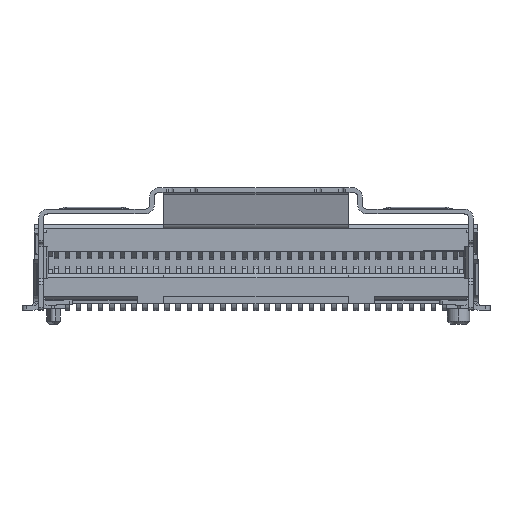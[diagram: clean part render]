
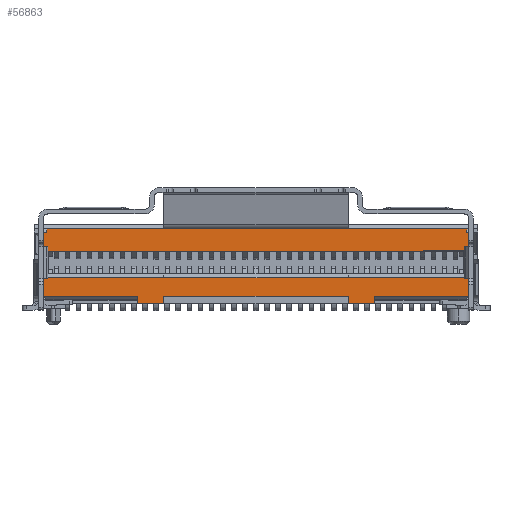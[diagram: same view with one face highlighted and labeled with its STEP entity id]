
A CAD part, top view. The second image highlights one B-rep face of the part: STEP entity #56863.
In plain terms, the highlighted planar face has unit normal (0, 0, 1).
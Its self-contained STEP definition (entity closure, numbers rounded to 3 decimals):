
#2132=DIRECTION('',(1.,0.,0.));
#2133=VECTOR('',#2132,0.198);
#2134=CARTESIAN_POINT('',(-11.5,1.62,0.));
#2135=LINE('',#2134,#2133);
#2136=DIRECTION('',(1.,0.,0.));
#2137=VECTOR('',#2136,22.689);
#2138=CARTESIAN_POINT('',(-11.302,1.82,0.));
#2139=LINE('',#2138,#2137);
#2140=DIRECTION('',(0.,-1.,0.));
#2141=VECTOR('',#2140,0.2);
#2142=CARTESIAN_POINT('',(11.387,1.82,0.));
#2143=LINE('',#2142,#2141);
#2144=DIRECTION('',(1.,0.,0.));
#2145=VECTOR('',#2144,0.113);
#2146=CARTESIAN_POINT('',(11.387,1.62,0.));
#2147=LINE('',#2146,#2145);
#2148=DIRECTION('',(0.,-1.,0.));
#2149=VECTOR('',#2148,0.05);
#2150=CARTESIAN_POINT('',(11.5,-1.77,0.));
#2151=LINE('',#2150,#2149);
#2152=DIRECTION('',(-1.,0.,0.));
#2153=VECTOR('',#2152,5.085);
#2154=CARTESIAN_POINT('',(11.5,-1.82,0.));
#2155=LINE('',#2154,#2153);
#2156=DIRECTION('',(0.,-1.,0.));
#2157=VECTOR('',#2156,0.4);
#2158=CARTESIAN_POINT('',(6.415,-1.82,0.));
#2159=LINE('',#2158,#2157);
#2160=DIRECTION('',(-1.,0.,0.));
#2161=VECTOR('',#2160,9.97);
#2162=CARTESIAN_POINT('',(4.985,-1.82,0.));
#2163=LINE('',#2162,#2161);
#2164=DIRECTION('',(0.,-1.,0.));
#2165=VECTOR('',#2164,0.4);
#2166=CARTESIAN_POINT('',(-4.985,-1.82,0.));
#2167=LINE('',#2166,#2165);
#2168=DIRECTION('',(-1.,0.,0.));
#2169=VECTOR('',#2168,5.085);
#2170=CARTESIAN_POINT('',(-6.415,-1.82,0.));
#2171=LINE('',#2170,#2169);
#2172=DIRECTION('',(0.,1.,0.));
#2173=VECTOR('',#2172,0.05);
#2174=CARTESIAN_POINT('',(-11.5,-1.82,0.));
#2175=LINE('',#2174,#2173);
#2176=DIRECTION('',(0.,1.,0.));
#2177=VECTOR('',#2176,3.39);
#2178=CARTESIAN_POINT('',(-11.5,-1.77,0.));
#2179=LINE('',#2178,#2177);
#2180=DIRECTION('',(-1.,0.001,0.));
#2181=VECTOR('',#2180,0.053);
#2182=CARTESIAN_POINT('',(11.44,0.81,0.));
#2183=LINE('',#2182,#2181);
#2184=DIRECTION('',(0.,-1.,0.));
#2185=VECTOR('',#2184,0.182);
#2186=CARTESIAN_POINT('',(11.387,0.81,
0.));
#2187=LINE('',#2186,#2185);
#2188=DIRECTION('',(-1.,-0.001,0.));
#2189=VECTOR('',#2188,22.689);
#2190=CARTESIAN_POINT('',(11.387,0.628,
0.));
#2191=LINE('',#2190,#2189);
#2192=DIRECTION('',(-1.,-0.001,0.));
#2193=VECTOR('',#2192,0.138);
#2194=CARTESIAN_POINT('',(-11.302,0.81,
0.));
#2195=LINE('',#2194,#2193);
#2196=DIRECTION('',(0.,-1.,0.));
#2197=VECTOR('',#2196,1.62);
#2198=CARTESIAN_POINT('',(-11.44,0.81,0.));
#2199=LINE('',#2198,#2197);
#2200=DIRECTION('',(1.,-0.001,0.));
#2201=VECTOR('',#2200,6.455);
#2202=CARTESIAN_POINT('',(-11.44,-0.81,0.));
#2203=LINE('',#2202,#2201);
#2204=DIRECTION('',(1.,0.,0.));
#2205=VECTOR('',#2204,9.97);
#2206=CARTESIAN_POINT('',(-4.985,-0.815,
0.));
#2207=LINE('',#2206,#2205);
#2208=DIRECTION('',(1.,0.001,0.));
#2209=VECTOR('',#2208,6.455);
#2210=CARTESIAN_POINT('',(4.985,-0.815,
0.));
#2211=LINE('',#2210,#2209);
#2212=DIRECTION('',(0.,1.,0.));
#2213=VECTOR('',#2212,1.62);
#2214=CARTESIAN_POINT('',(11.44,-0.81,0.));
#2215=LINE('',#2214,#2213);
#2224=DIRECTION('',(0.,-1.,0.));
#2225=VECTOR('',#2224,0.2);
#2226=CARTESIAN_POINT('',(-11.302,1.82,0.));
#2227=LINE('',#2226,#2225);
#2353=DIRECTION('',(0.,1.,0.));
#2354=VECTOR('',#2353,3.39);
#2355=CARTESIAN_POINT('',(11.5,-1.77,0.));
#2356=LINE('',#2355,#2354);
#4751=DIRECTION('',(1.,0.,0.));
#4752=VECTOR('',#4751,1.43);
#4753=CARTESIAN_POINT('',(-6.415,-2.22,0.));
#4754=LINE('',#4753,#4752);
#4767=DIRECTION('',(1.,0.,0.));
#4768=VECTOR('',#4767,1.43);
#4769=CARTESIAN_POINT('',(4.985,-2.22,0.));
#4770=LINE('',#4769,#4768);
#6139=DIRECTION('',(0.,-1.,0.));
#6140=VECTOR('',#6139,0.4);
#6141=CARTESIAN_POINT('',(-6.415,-1.82,0.));
#6142=LINE('',#6141,#6140);
#24987=DIRECTION('',(0.,-1.,0.));
#24988=VECTOR('',#24987,0.4);
#24989=CARTESIAN_POINT('',(4.985,-1.82,0.));
#24990=LINE('',#24989,#24988);
#30262=DIRECTION('',(0.,-1.,0.));
#30263=VECTOR('',#30262,0.2);
#30264=CARTESIAN_POINT('',(-11.302,0.81,
0.));
#30265=LINE('',#30264,#30263);
#45008=CARTESIAN_POINT('',(-6.415,-2.22,0.));
#45009=VERTEX_POINT('',#45008);
#45010=CARTESIAN_POINT('',(-4.985,-2.22,0.));
#45011=VERTEX_POINT('',#45010);
#45016=CARTESIAN_POINT('',(4.985,-2.22,0.));
#45017=VERTEX_POINT('',#45016);
#45018=CARTESIAN_POINT('',(6.415,-2.22,0.));
#45019=VERTEX_POINT('',#45018);
#45242=CARTESIAN_POINT('',(11.5,-1.82,0.));
#45243=VERTEX_POINT('',#45242);
#45244=CARTESIAN_POINT('',(6.415,-1.82,0.));
#45245=VERTEX_POINT('',#45244);
#45407=CARTESIAN_POINT('',(11.5,-1.77,0.));
#45408=VERTEX_POINT('',#45407);
#45411=CARTESIAN_POINT('',(-11.5,1.62,0.));
#45412=CARTESIAN_POINT('',(-11.302,1.62,
0.));
#45413=VERTEX_POINT('',#45411);
#45414=VERTEX_POINT('',#45412);
#45415=CARTESIAN_POINT('',(-11.302,1.82,0.));
#45416=VERTEX_POINT('',#45415);
#45417=CARTESIAN_POINT('',(11.387,1.82,0.));
#45418=VERTEX_POINT('',#45417);
#45419=CARTESIAN_POINT('',(11.387,1.62,0.));
#45420=VERTEX_POINT('',#45419);
#45421=CARTESIAN_POINT('',(11.5,1.62,0.));
#45422=VERTEX_POINT('',#45421);
#45423=CARTESIAN_POINT('',(4.985,-1.82,0.));
#45424=VERTEX_POINT('',#45423);
#45425=CARTESIAN_POINT('',(-4.985,-1.82,0.));
#45426=VERTEX_POINT('',#45425);
#45427=CARTESIAN_POINT('',(-6.415,-1.82,0.));
#45428=VERTEX_POINT('',#45427);
#45429=CARTESIAN_POINT('',(-11.5,-1.82,0.));
#45430=VERTEX_POINT('',#45429);
#45431=CARTESIAN_POINT('',(-11.5,-1.77,0.));
#45432=VERTEX_POINT('',#45431);
#45433=CARTESIAN_POINT('',(11.44,0.81,0.));
#45434=CARTESIAN_POINT('',(11.387,0.81,
0.));
#45435=VERTEX_POINT('',#45433);
#45436=VERTEX_POINT('',#45434);
#45437=CARTESIAN_POINT('',(11.387,0.628,
0.));
#45438=VERTEX_POINT('',#45437);
#45439=CARTESIAN_POINT('',(-11.302,0.61,
0.));
#45440=VERTEX_POINT('',#45439);
#45441=CARTESIAN_POINT('',(-11.302,0.81,
0.));
#45442=VERTEX_POINT('',#45441);
#45443=CARTESIAN_POINT('',(-11.44,0.81,0.));
#45444=VERTEX_POINT('',#45443);
#45445=CARTESIAN_POINT('',(-11.44,-0.81,0.));
#45446=VERTEX_POINT('',#45445);
#45447=CARTESIAN_POINT('',(-4.985,-0.815,
0.));
#45448=VERTEX_POINT('',#45447);
#45449=CARTESIAN_POINT('',(4.985,-0.815,
0.));
#45450=VERTEX_POINT('',#45449);
#45451=CARTESIAN_POINT('',(11.44,-0.81,0.));
#45452=VERTEX_POINT('',#45451);
#56801=CARTESIAN_POINT('',(5.4,0.,0.));
#56802=DIRECTION('',(0.,0.,1.));
#56803=DIRECTION('',(1.,0.,0.));
#56804=AXIS2_PLACEMENT_3D('',#56801,#56802,#56803);
#56805=PLANE('',#56804);
#56807=ORIENTED_EDGE('',*,*,#56806,.T.);
#56809=ORIENTED_EDGE('',*,*,#56808,.F.);
#56811=ORIENTED_EDGE('',*,*,#56810,.T.);
#56813=ORIENTED_EDGE('',*,*,#56812,.T.);
#56815=ORIENTED_EDGE('',*,*,#56814,.T.);
#56817=ORIENTED_EDGE('',*,*,#56816,.F.);
#56819=ORIENTED_EDGE('',*,*,#56818,.T.);
#56821=ORIENTED_EDGE('',*,*,#56820,.T.);
#56823=ORIENTED_EDGE('',*,*,#56822,.T.);
#56825=ORIENTED_EDGE('',*,*,#56824,.F.);
#56827=ORIENTED_EDGE('',*,*,#56826,.F.);
#56829=ORIENTED_EDGE('',*,*,#56828,.T.);
#56831=ORIENTED_EDGE('',*,*,#56830,.T.);
#56833=ORIENTED_EDGE('',*,*,#56832,.F.);
#56835=ORIENTED_EDGE('',*,*,#56834,.F.);
#56837=ORIENTED_EDGE('',*,*,#56836,.T.);
#56839=ORIENTED_EDGE('',*,*,#56838,.T.);
#56841=ORIENTED_EDGE('',*,*,#56840,.T.);
#56842=EDGE_LOOP('',(#56807,#56809,#56811,#56813,#56815,#56817,#56819,#56821,
#56823,#56825,#56827,#56829,#56831,#56833,#56835,#56837,#56839,#56841));
#56843=FACE_OUTER_BOUND('',#56842,.F.);
#56845=ORIENTED_EDGE('',*,*,#56844,.T.);
#56846=ORIENTED_EDGE('',*,*,#56794,.T.);
#56847=ORIENTED_EDGE('',*,*,#53686,.T.);
#56849=ORIENTED_EDGE('',*,*,#56848,.F.);
#56851=ORIENTED_EDGE('',*,*,#56850,.T.);
#56853=ORIENTED_EDGE('',*,*,#56852,.T.);
#56855=ORIENTED_EDGE('',*,*,#56854,.T.);
#56857=ORIENTED_EDGE('',*,*,#56856,.T.);
#56859=ORIENTED_EDGE('',*,*,#56858,.T.);
#56860=ORIENTED_EDGE('',*,*,#56776,.T.);
#56861=EDGE_LOOP('',(#56845,#56846,#56847,#56849,#56851,#56853,#56855,#56857,
#56859,#56860));
#56862=FACE_BOUND('',#56861,.F.);
#56863=ADVANCED_FACE('',(#56843,#56862),#56805,.T.);
#53686=EDGE_CURVE('',#45438,#45440,#2191,.T.);
#56776=EDGE_CURVE('',#45452,#45435,#2215,.T.);
#56794=EDGE_CURVE('',#45436,#45438,#2187,.T.);
#56806=EDGE_CURVE('',#45413,#45414,#2135,.T.);
#56808=EDGE_CURVE('',#45416,#45414,#2227,.T.);
#56810=EDGE_CURVE('',#45416,#45418,#2139,.T.);
#56812=EDGE_CURVE('',#45418,#45420,#2143,.T.);
#56814=EDGE_CURVE('',#45420,#45422,#2147,.T.);
#56816=EDGE_CURVE('',#45408,#45422,#2356,.T.);
#56818=EDGE_CURVE('',#45408,#45243,#2151,.T.);
#56820=EDGE_CURVE('',#45243,#45245,#2155,.T.);
#56822=EDGE_CURVE('',#45245,#45019,#2159,.T.);
#56824=EDGE_CURVE('',#45017,#45019,#4770,.T.);
#56826=EDGE_CURVE('',#45424,#45017,#24990,.T.);
#56828=EDGE_CURVE('',#45424,#45426,#2163,.T.);
#56830=EDGE_CURVE('',#45426,#45011,#2167,.T.);
#56832=EDGE_CURVE('',#45009,#45011,#4754,.T.);
#56834=EDGE_CURVE('',#45428,#45009,#6142,.T.);
#56836=EDGE_CURVE('',#45428,#45430,#2171,.T.);
#56838=EDGE_CURVE('',#45430,#45432,#2175,.T.);
#56840=EDGE_CURVE('',#45432,#45413,#2179,.T.);
#56844=EDGE_CURVE('',#45435,#45436,#2183,.T.);
#56848=EDGE_CURVE('',#45442,#45440,#30265,.T.);
#56850=EDGE_CURVE('',#45442,#45444,#2195,.T.);
#56852=EDGE_CURVE('',#45444,#45446,#2199,.T.);
#56854=EDGE_CURVE('',#45446,#45448,#2203,.T.);
#56856=EDGE_CURVE('',#45448,#45450,#2207,.T.);
#56858=EDGE_CURVE('',#45450,#45452,#2211,.T.);
